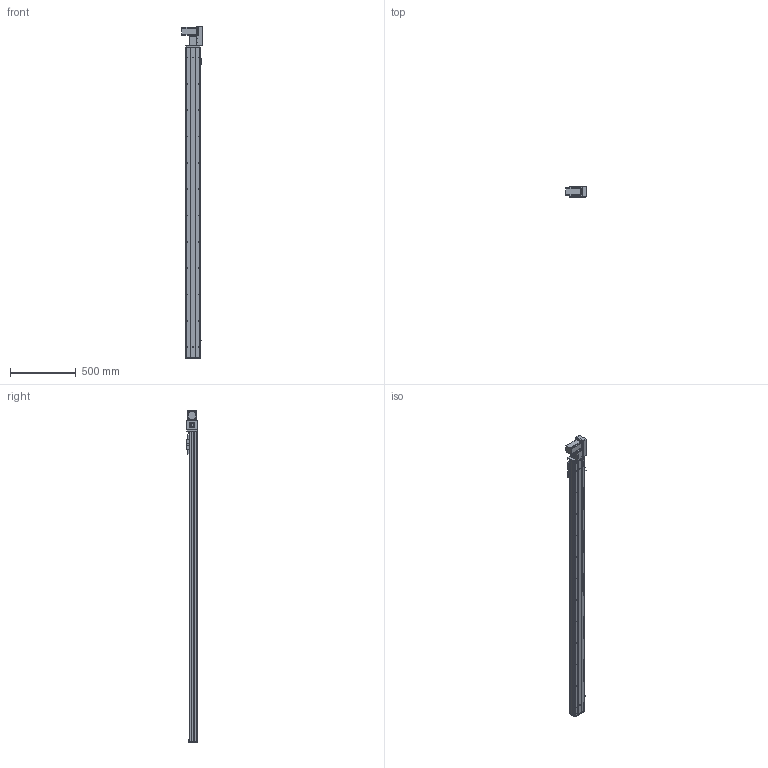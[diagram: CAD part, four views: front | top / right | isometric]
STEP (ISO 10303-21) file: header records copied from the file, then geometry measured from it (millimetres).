
FILE_DESCRIPTION (( 'STEP AP203' ), '1' );
FILE_NAME ('Y10CB-D90-S2100-BR-P400W.STEP', '2020-02-16T02:14:01', ( '微软用户' ), ( '微软中国' ), 'SwSTEP 2.0', 'SolidWorks 2017', '' );
FILE_SCHEMA (( 'CONFIG_CONTROL_DESIGN' ));
Length unit declared in the file: millimetre
Products named in the file (18): 0B-源倛裔啣; Y100-135俋离換覜ん--; 0B-埴倛裔啣; Y10B--々湍喘謫眊--666; Y俋欶BR----; 0CB-雄赽釱---; Y10CB-D90-S2100-BR-P400W; 10CB-詩湍-; 0Cb-俋欶---; Y10CB- 掛极耜裔啣-毀---; Y10B-々湍喘謫眊楊擘啣--; Y10C---詩湍揤啣; Y10B-耜蚾蟀諉啣----; 10CB9-掛极; 0B-萇儂楊擘啣; 10CB-耜裔; san松下电机400不带刹车----; Y135C-陔俋离換覜結え-
Assembly tree (21 placements, depth 2):
  Y10CB-D90-S2100-BR-P400W
    0CB-雄赽釱---
    0Cb-俋欶---
    Y10B-々湍喘謫眊楊擘啣--
    Y10B-耜蚾蟀諉啣----
    0B-萇儂楊擘啣
    san松下电机400不带刹车----
    0B-源倛裔啣
    0B-埴倛裔啣
    Y俋欶BR----
    10CB-詩湍-
    Y10CB- 掛极耜裔啣-毀---  x2
    Y10C---詩湍揤啣  x2
    10CB9-掛极
    10CB-耜裔
    Y135C-陔俋离換覜結え-
    Y100-135俋离換覜ん--  x3
    Y10B--々湍喘謫眊--666
Bounding box: 157.5 x 80.5 x 2522.5 mm (x, y, z)
Volume: 5056390.1 mm3; surface area: 2380965.2 mm2
Topology: 21 solids, 21 shells, 1050 faces, 2843 edges, 1850 vertices
Faces by surface type: cylinder 537, plane 489, cone 24
Entity records: 33404 total; most frequent: CARTESIAN_POINT 6209, DIRECTION 5334, ORIENTED_EDGE 5156, EDGE_CURVE 2578, AXIS2_PLACEMENT_3D 1905, VERTEX_POINT 1676, VECTOR 1524, LINE 1524
